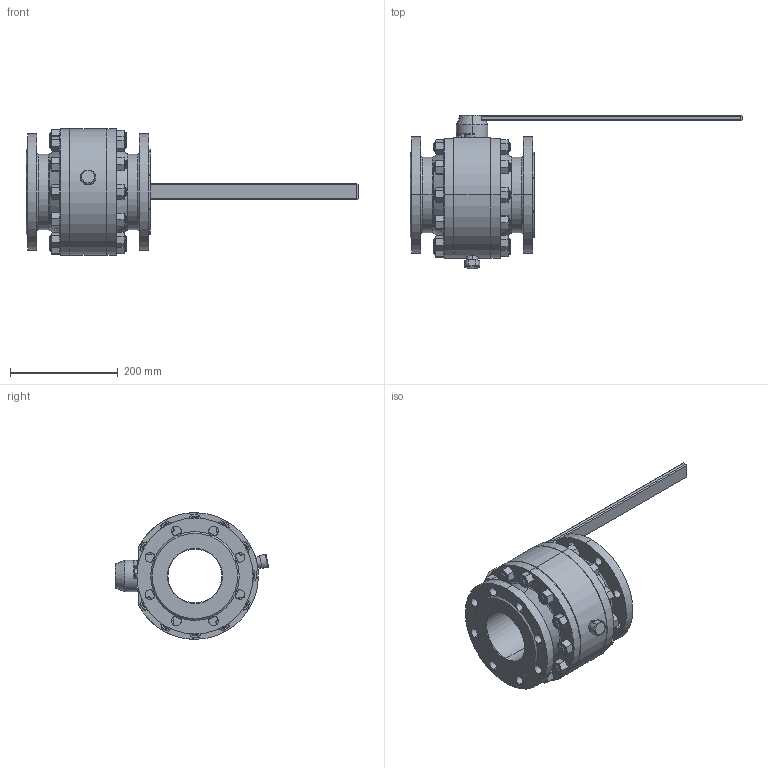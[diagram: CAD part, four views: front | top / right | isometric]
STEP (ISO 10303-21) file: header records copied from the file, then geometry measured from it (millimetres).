
FILE_DESCRIPTION(('STEP AP203'), '1');
FILE_NAME('ZARDP 100.016.21.P.stp', '2013-12-09T06:04:46', ('UNSPECIFIED UNSPECIFIED'), ('UNSPECIFIED'), 'ASCON STEP Converter 1.3', 'Kompas 3D', '');
FILE_SCHEMA(('CONFIG_CONTROL_DESIGN','SUPPORT_RESOURCE_SCHEMA'));
Length unit declared in the file: millimetre
Products named in the file (1): 21
Bounding box: 615 x 284 x 235 mm (x, y, z)
Volume: 4673375.8 mm3; surface area: 698600.9 mm2
Topology: 32 solids, 32 shells, 895 faces, 2119 edges, 1338 vertices
Faces by surface type: cone 310, plane 309, cylinder 262, torus 12, bspline 2
Entity records: 37721 total; most frequent: CARTESIAN_POINT 16636, DIRECTION 4381, ORIENTED_EDGE 4238, EDGE_CURVE 2119, AXIS2_PLACEMENT_3D 1792, VERTEX_POINT 1338, EDGE_LOOP 1057, CIRCLE 898
